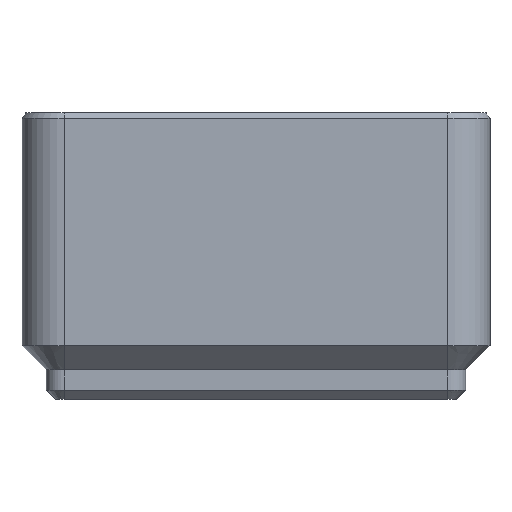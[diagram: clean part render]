
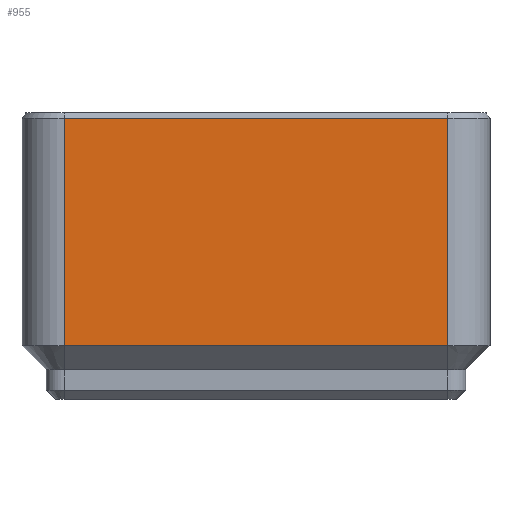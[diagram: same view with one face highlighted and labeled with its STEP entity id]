
A CAD part, left-side view. The second image highlights one B-rep face of the part: STEP entity #955.
In plain terms, the highlighted planar face has unit normal (-1, 0, 0).
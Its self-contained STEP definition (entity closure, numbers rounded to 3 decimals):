
#72 = PLANE('',#73);
#73 = AXIS2_PLACEMENT_3D('',#74,#75,#76);
#74 = CARTESIAN_POINT('',(-20.75,0.,4.75));
#75 = DIRECTION('',(-0.707,0.,-0.707));
#76 = DIRECTION('',(0.,-1.,-0.));
#387 = VERTEX_POINT('',#388);
#388 = CARTESIAN_POINT('',(-20.75,-17.,4.75));
#406 = EDGE_CURVE('',#387,#407,#409,.T.);
#407 = VERTEX_POINT('',#408);
#408 = CARTESIAN_POINT('',(-20.75,17.,4.75));
#409 = SURFACE_CURVE('',#410,(#414,#421),.PCURVE_S1.);
#410 = LINE('',#411,#412);
#411 = CARTESIAN_POINT('',(-20.75,0.,4.75));
#412 = VECTOR('',#413,1.);
#413 = DIRECTION('',(0.,1.,0.));
#414 = PCURVE('',#72,#415);
#415 = DEFINITIONAL_REPRESENTATION('',(#416),#420);
#416 = LINE('',#417,#418);
#417 = CARTESIAN_POINT('',(0.,0.));
#418 = VECTOR('',#419,1.);
#419 = DIRECTION('',(-1.,0.));
#420 = ( GEOMETRIC_REPRESENTATION_CONTEXT(2) 
PARAMETRIC_REPRESENTATION_CONTEXT() REPRESENTATION_CONTEXT('2D SPACE',''
  ) );
#421 = PCURVE('',#422,#427);
#422 = PLANE('',#423);
#423 = AXIS2_PLACEMENT_3D('',#424,#425,#426);
#424 = CARTESIAN_POINT('',(-20.75,-17.,4.75));
#425 = DIRECTION('',(-1.,0.,0.));
#426 = DIRECTION('',(0.,1.,0.));
#427 = DEFINITIONAL_REPRESENTATION('',(#428),#432);
#428 = LINE('',#429,#430);
#429 = CARTESIAN_POINT('',(17.,0.));
#430 = VECTOR('',#431,1.);
#431 = DIRECTION('',(1.,0.));
#432 = ( GEOMETRIC_REPRESENTATION_CONTEXT(2) 
PARAMETRIC_REPRESENTATION_CONTEXT() REPRESENTATION_CONTEXT('2D SPACE',''
  ) );
#624 = CYLINDRICAL_SURFACE('',#625,3.75);
#625 = AXIS2_PLACEMENT_3D('',#626,#627,#628);
#626 = CARTESIAN_POINT('',(-17.,-17.,4.75));
#627 = DIRECTION('',(0.,0.,-1.));
#628 = DIRECTION('',(-1.,0.,0.));
#791 = CYLINDRICAL_SURFACE('',#792,3.75);
#792 = AXIS2_PLACEMENT_3D('',#793,#794,#795);
#793 = CARTESIAN_POINT('',(-17.,17.,4.75));
#794 = DIRECTION('',(0.,0.,-1.));
#795 = DIRECTION('',(-1.,0.,0.));
#955 = ADVANCED_FACE('',(#956),#422,.T.);
#956 = FACE_BOUND('',#957,.T.);
#957 = EDGE_LOOP('',(#958,#981,#1009,#1030));
#958 = ORIENTED_EDGE('',*,*,#959,.T.);
#959 = EDGE_CURVE('',#387,#960,#962,.T.);
#960 = VERTEX_POINT('',#961);
#961 = CARTESIAN_POINT('',(-20.75,-17.,24.9));
#962 = SURFACE_CURVE('',#963,(#967,#974),.PCURVE_S1.);
#963 = LINE('',#964,#965);
#964 = CARTESIAN_POINT('',(-20.75,-17.,4.75));
#965 = VECTOR('',#966,1.);
#966 = DIRECTION('',(0.,0.,1.));
#967 = PCURVE('',#422,#968);
#968 = DEFINITIONAL_REPRESENTATION('',(#969),#973);
#969 = LINE('',#970,#971);
#970 = CARTESIAN_POINT('',(0.,0.));
#971 = VECTOR('',#972,1.);
#972 = DIRECTION('',(0.,-1.));
#973 = ( GEOMETRIC_REPRESENTATION_CONTEXT(2) 
PARAMETRIC_REPRESENTATION_CONTEXT() REPRESENTATION_CONTEXT('2D SPACE',''
  ) );
#974 = PCURVE('',#624,#975);
#975 = DEFINITIONAL_REPRESENTATION('',(#976),#980);
#976 = LINE('',#977,#978);
#977 = CARTESIAN_POINT('',(6.283,0.));
#978 = VECTOR('',#979,1.);
#979 = DIRECTION('',(0.,-1.));
#980 = ( GEOMETRIC_REPRESENTATION_CONTEXT(2) 
PARAMETRIC_REPRESENTATION_CONTEXT() REPRESENTATION_CONTEXT('2D SPACE',''
  ) );
#981 = ORIENTED_EDGE('',*,*,#982,.T.);
#982 = EDGE_CURVE('',#960,#983,#985,.T.);
#983 = VERTEX_POINT('',#984);
#984 = CARTESIAN_POINT('',(-20.75,17.,24.9));
#985 = SURFACE_CURVE('',#986,(#990,#997),.PCURVE_S1.);
#986 = LINE('',#987,#988);
#987 = CARTESIAN_POINT('',(-20.75,0.,24.9));
#988 = VECTOR('',#989,1.);
#989 = DIRECTION('',(0.,1.,0.));
#990 = PCURVE('',#422,#991);
#991 = DEFINITIONAL_REPRESENTATION('',(#992),#996);
#992 = LINE('',#993,#994);
#993 = CARTESIAN_POINT('',(17.,-20.15));
#994 = VECTOR('',#995,1.);
#995 = DIRECTION('',(1.,0.));
#996 = ( GEOMETRIC_REPRESENTATION_CONTEXT(2) 
PARAMETRIC_REPRESENTATION_CONTEXT() REPRESENTATION_CONTEXT('2D SPACE',''
  ) );
#997 = PCURVE('',#998,#1003);
#998 = PLANE('',#999);
#999 = AXIS2_PLACEMENT_3D('',#1000,#1001,#1002);
#1000 = CARTESIAN_POINT('',(-20.4,0.,25.4));
#1001 = DIRECTION('',(-0.819,0.,0.573));
#1002 = DIRECTION('',(-0.,-1.,0.));
#1003 = DEFINITIONAL_REPRESENTATION('',(#1004),#1008);
#1004 = LINE('',#1005,#1006);
#1005 = CARTESIAN_POINT('',(0.,-0.61));
#1006 = VECTOR('',#1007,1.);
#1007 = DIRECTION('',(-1.,0.));
#1008 = ( GEOMETRIC_REPRESENTATION_CONTEXT(2) 
PARAMETRIC_REPRESENTATION_CONTEXT() REPRESENTATION_CONTEXT('2D SPACE',''
  ) );
#1009 = ORIENTED_EDGE('',*,*,#1010,.F.);
#1010 = EDGE_CURVE('',#407,#983,#1011,.T.);
#1011 = SURFACE_CURVE('',#1012,(#1016,#1023),.PCURVE_S1.);
#1012 = LINE('',#1013,#1014);
#1013 = CARTESIAN_POINT('',(-20.75,17.,4.75));
#1014 = VECTOR('',#1015,1.);
#1015 = DIRECTION('',(0.,0.,1.));
#1016 = PCURVE('',#422,#1017);
#1017 = DEFINITIONAL_REPRESENTATION('',(#1018),#1022);
#1018 = LINE('',#1019,#1020);
#1019 = CARTESIAN_POINT('',(34.,0.));
#1020 = VECTOR('',#1021,1.);
#1021 = DIRECTION('',(0.,-1.));
#1022 = ( GEOMETRIC_REPRESENTATION_CONTEXT(2) 
PARAMETRIC_REPRESENTATION_CONTEXT() REPRESENTATION_CONTEXT('2D SPACE',''
  ) );
#1023 = PCURVE('',#791,#1024);
#1024 = DEFINITIONAL_REPRESENTATION('',(#1025),#1029);
#1025 = LINE('',#1026,#1027);
#1026 = CARTESIAN_POINT('',(0.,0.));
#1027 = VECTOR('',#1028,1.);
#1028 = DIRECTION('',(0.,-1.));
#1029 = ( GEOMETRIC_REPRESENTATION_CONTEXT(2) 
PARAMETRIC_REPRESENTATION_CONTEXT() REPRESENTATION_CONTEXT('2D SPACE',''
  ) );
#1030 = ORIENTED_EDGE('',*,*,#406,.F.);
